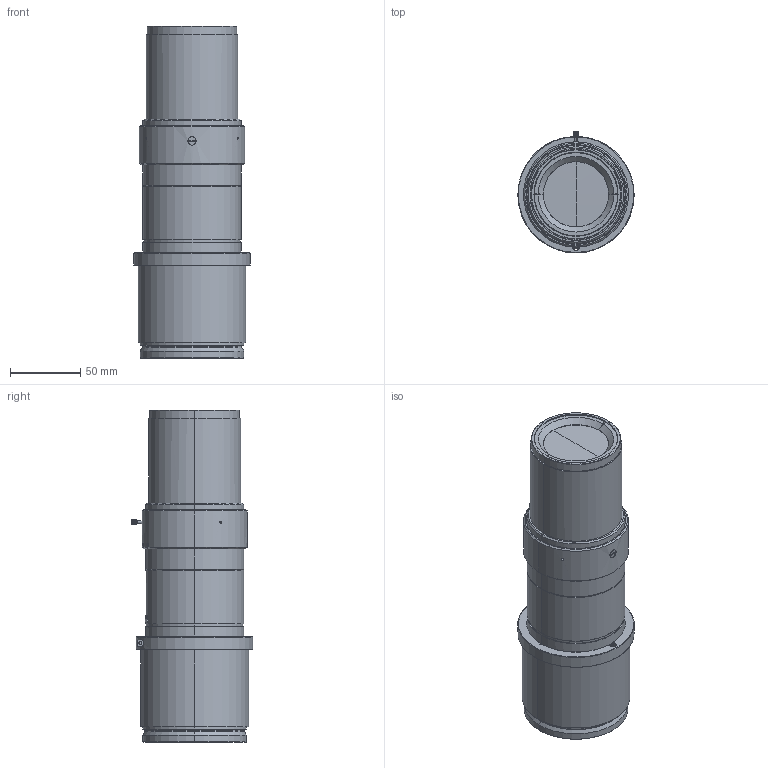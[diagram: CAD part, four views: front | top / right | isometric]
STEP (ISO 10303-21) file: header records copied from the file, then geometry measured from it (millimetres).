
FILE_DESCRIPTION (( 'STEP AP214' ), '1' );
FILE_NAME ('ML-LS9528-67V74-175.STEP', '2026-02-16T03:03:42', ( '' ), ( '' ), 'SwSTEP 2.0', 'SolidWorks 2025', '' );
FILE_SCHEMA (( 'AUTOMOTIVE_DESIGN' ));
Length unit declared in the file: millimetre
Products named in the file (1): ML-LS9528-67V74-175
Bounding box: 82.99 x 86.7 x 236.78 mm (x, y, z)
Volume: 585354.4 mm3; surface area: 94310.5 mm2
Topology: 1 solids, 1 shells, 683 faces, 1956 edges, 1347 vertices
Faces by surface type: cylinder 241, plane 204, bspline 160, cone 68, torus 6, sphere 4
Entity records: 37827 total; most frequent: CARTESIAN_POINT 21601, ORIENTED_EDGE 3908, DIRECTION 2567, EDGE_CURVE 1954, VERTEX_POINT 1347, AXIS2_PLACEMENT_3D 986, B_SPLINE_CURVE_WITH_KNOTS 897, EDGE_LOOP 761
